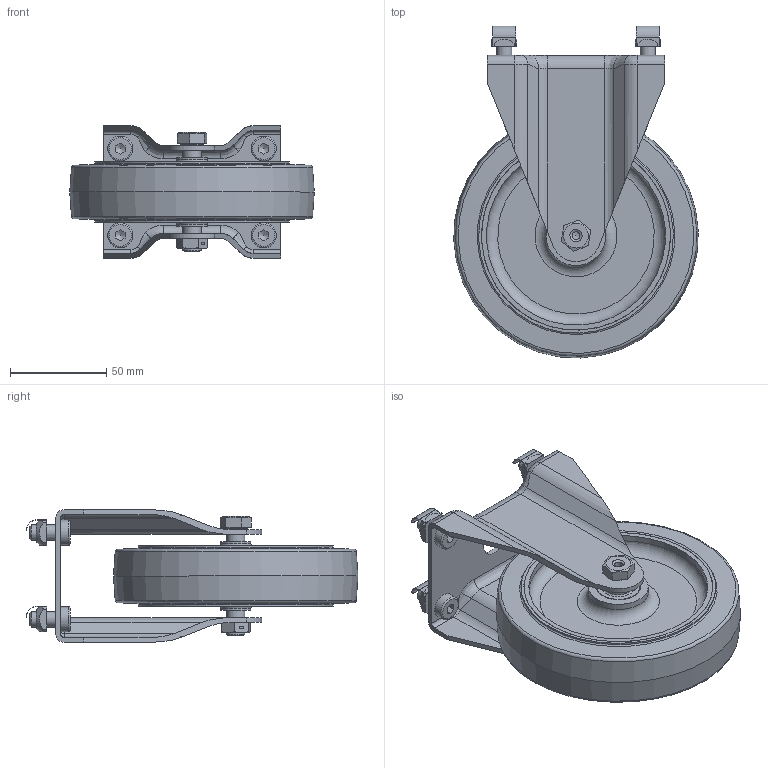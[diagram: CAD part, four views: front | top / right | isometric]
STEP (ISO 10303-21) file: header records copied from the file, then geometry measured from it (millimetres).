
FILE_DESCRIPTION((''),'2;1');
FILE_NAME('C:\Documents and Settings\Administrator\My Documents\Andys Backup Data\WEBSITE\DREAMWEAVER\MiniTec\Products\Leveling_Feet_Mounting_Plates_Casters\CAD\Step\21.9407 RIGID CASTER 5in.stp','2012-08-16T14:30:43',('Administrator'),(''),'Autodesk Inventor 2009','Autodesk Inventor 2009','');
FILE_SCHEMA(('AUTOMOTIVE_DESIGN { 1 0 10303 214 1 1 1 1 }'));
Length unit declared in the file: inch
Products named in the file (11): 21.9407 RIGID CASTER 5in; 21.9407_1 CASTER 5 RIGID; 21.9404 wheel assy; 21.9403 ball bearing; 21.9404 wheel core; 21.9404 wheel tread; 21.9401 WHEEL BOLT; 21.9401 WHEEL NUT; 21.9407 RIGID CASTER 5IN FORK; 21.1200 M8 x 16; 21.1351_2 M8 SQUARE NUT POS FXG
Assembly tree (16 placements, depth 4):
  21.9407 RIGID CASTER 5in
    21.9407_1 CASTER 5 RIGID
      21.9404 wheel assy
        21.9403 ball bearing
        21.9404 wheel core
        21.9404 wheel tread
      21.9401 WHEEL BOLT
      21.9401 WHEEL NUT
      21.9407 RIGID CASTER 5IN FORK
    21.1200 M8 x 16  x4
    21.1351_2 M8 SQUARE NUT POS FXG  x4
Bounding box: 127 x 172.42 x 68.83 mm (x, y, z)
Volume: 330268.9 mm3; surface area: 113943.7 mm2
Topology: 14 solids, 14 shells, 350 faces, 861 edges, 556 vertices
Faces by surface type: plane 175, cylinder 84, cone 45, bspline 30, torus 16
Full cylindrical faces by diameter (mm): 2.286 x1, 4.064 x1, 8 x8, 8.871 x1, 9.525 x1, 12.192 x1, 13 x4, 15.875 x3, 22.606 x2, 22.86 x1, 22.911 x1, 31.039 x2, 93.015 x2, 98.095 x1, 98.146 x1, 101.194 x2
Entity records: 9919 total; most frequent: CARTESIAN_POINT 4237, DIRECTION 1080, ORIENTED_EDGE 1034, EDGE_CURVE 517, AXIS2_PLACEMENT_3D 420, VERTEX_POINT 365, EDGE_LOOP 354, FACE_OUTER_BOUND 248
